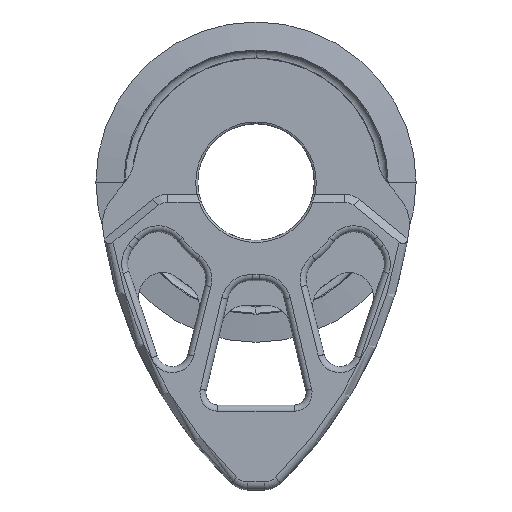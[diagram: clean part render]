
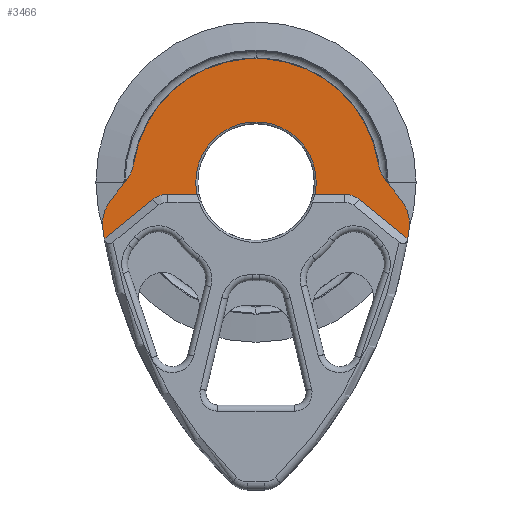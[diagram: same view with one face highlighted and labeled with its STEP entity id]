
A CAD part, front view. The second image highlights one B-rep face of the part: STEP entity #3466.
In plain terms, the highlighted planar face has unit normal (0, -1, 0) as drawn and (0, 0, 1) by its records, which use the part's own axes.
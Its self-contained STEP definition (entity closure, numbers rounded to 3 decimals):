
#1810=CARTESIAN_POINT('',(0.,0.,13.8));
#1811=DIRECTION('',(0.,0.,-1.));
#1812=DIRECTION('',(0.98,0.199,0.));
#1813=AXIS2_PLACEMENT_3D('',#1810,#1811,#1812);
#1823=DIRECTION('',(0.777,0.629,0.));
#1824=VECTOR('',#1823,15.612);
#1825=CARTESIAN_POINT('',(25.776,4.337,13.8));
#1826=LINE('',#1825,#1824);
#1827=DIRECTION('',(0.777,-0.629,0.));
#1828=VECTOR('',#1827,15.612);
#1829=CARTESIAN_POINT('',(-37.908,14.162,13.8));
#1830=LINE('',#1829,#1828);
#1831=CARTESIAN_POINT('',(-22.,9.,13.8));
#1832=DIRECTION('',(0.,0.,1.));
#1833=DIRECTION('',(-0.629,-0.777,0.));
#1834=AXIS2_PLACEMENT_3D('',#1831,#1832,#1833);
#1836=DIRECTION('',(1.,0.,0.));
#1837=VECTOR('',#1836,7.252);
#1838=CARTESIAN_POINT('',(-22.,3.,13.8));
#1839=LINE('',#1838,#1837);
#1840=DIRECTION('',(1.,0.,0.));
#1841=VECTOR('',#1840,7.252);
#1842=CARTESIAN_POINT('',(14.748,3.,13.8));
#1843=LINE('',#1842,#1841);
#1844=CARTESIAN_POINT('',(22.,9.,13.8));
#1845=DIRECTION('',(0.,0.,1.));
#1846=DIRECTION('',(0.,-1.,0.));
#1847=AXIS2_PLACEMENT_3D('',#1844,#1845,#1846);
#1849=CARTESIAN_POINT('',(37.908,14.162,13.8));
#2046=CARTESIAN_POINT('',(-37.908,14.162,13.8));
#2065=CARTESIAN_POINT('',(-14.748,3.,13.8));
#2101=CARTESIAN_POINT('',(14.748,3.,13.8));
#2166=CARTESIAN_POINT('',(69.823,-3.067,13.8));
#2167=DIRECTION('',(0.,0.,1.));
#2168=DIRECTION('',(-0.987,0.158,0.));
#2169=AXIS2_PLACEMENT_3D('',#2166,#2167,#2168);
#2744=CARTESIAN_POINT('',(-69.823,-3.067,13.8));
#2745=DIRECTION('',(0.,0.,1.));
#2746=DIRECTION('',(0.991,0.137,0.));
#2747=AXIS2_PLACEMENT_3D('',#2744,#2745,#2746);
#2789=CARTESIAN_POINT('',(28.341,10.524,13.8));
#2790=DIRECTION('',(0.,0.,-1.));
#2791=DIRECTION('',(0.991,0.137,0.));
#2792=AXIS2_PLACEMENT_3D('',#2789,#2790,#2791);
#2794=DIRECTION('',(0.63,0.777,0.));
#2795=VECTOR('',#2794,5.507);
#2796=CARTESIAN_POINT('',(32.638,-0.052,13.8));
#2797=LINE('',#2796,#2795);
#2810=CARTESIAN_POINT('',(40.404,-6.352,13.8));
#2811=DIRECTION('',(0.,0.,1.));
#2812=DIRECTION('',(-0.777,0.63,0.));
#2813=AXIS2_PLACEMENT_3D('',#2810,#2811,#2812);
#2815=CARTESIAN_POINT('',(0.,0.,13.8));
#2816=DIRECTION('',(0.,0.,1.));
#2817=DIRECTION('',(-0.988,-0.155,0.));
#2818=AXIS2_PLACEMENT_3D('',#2815,#2816,#2817);
#2828=CARTESIAN_POINT('',(-40.404,-6.352,13.8));
#2829=DIRECTION('',(0.,0.,1.));
#2830=DIRECTION('',(0.988,0.155,0.));
#2831=AXIS2_PLACEMENT_3D('',#2828,#2829,#2830);
#2833=DIRECTION('',(0.63,-0.777,0.));
#2834=VECTOR('',#2833,5.507);
#2835=CARTESIAN_POINT('',(-36.107,4.224,13.8));
#2836=LINE('',#2835,#2834);
#2849=CARTESIAN_POINT('',(-28.341,10.524,13.8));
#2850=DIRECTION('',(0.,0.,-1.));
#2851=DIRECTION('',(-0.777,-0.63,0.));
#2852=AXIS2_PLACEMENT_3D('',#2849,#2850,#2851);
#2994=CARTESIAN_POINT('',(38.246,11.896,13.8));
#2995=CARTESIAN_POINT('',(36.107,4.224,13.8));
#2996=VERTEX_POINT('',#2994);
#2997=VERTEX_POINT('',#2995);
#2998=CARTESIAN_POINT('',(32.638,-0.052,13.8));
#2999=VERTEX_POINT('',#2998);
#3000=CARTESIAN_POINT('',(30.525,-4.799,13.8));
#3001=VERTEX_POINT('',#3000);
#3002=CARTESIAN_POINT('',(-30.525,-4.799,13.8));
#3003=VERTEX_POINT('',#3002);
#3004=CARTESIAN_POINT('',(-32.638,-0.052,13.8));
#3005=VERTEX_POINT('',#3004);
#3006=CARTESIAN_POINT('',(-36.107,4.224,13.8));
#3007=VERTEX_POINT('',#3006);
#3008=CARTESIAN_POINT('',(-38.246,11.896,13.8));
#3009=VERTEX_POINT('',#3008);
#3014=CARTESIAN_POINT('',(22.,3.,13.8));
#3015=CARTESIAN_POINT('',(25.776,4.337,13.8));
#3016=VERTEX_POINT('',#3014);
#3017=VERTEX_POINT('',#3015);
#3022=CARTESIAN_POINT('',(-25.776,4.337,13.8));
#3023=CARTESIAN_POINT('',(-22.,3.,13.8));
#3024=VERTEX_POINT('',#3022);
#3025=VERTEX_POINT('',#3023);
#3037=VERTEX_POINT('',#2101);
#3042=VERTEX_POINT('',#2065);
#3044=VERTEX_POINT('',#2046);
#3061=VERTEX_POINT('',#1849);
#3428=CARTESIAN_POINT('',(0.,0.,13.8));
#3429=DIRECTION('',(0.,0.,1.));
#3430=DIRECTION('',(1.,0.,0.));
#3431=AXIS2_PLACEMENT_3D('',#3428,#3429,#3430);
#3432=PLANE('',#3431);
#3434=ORIENTED_EDGE('',*,*,#3433,.T.);
#3436=ORIENTED_EDGE('',*,*,#3435,.F.);
#3438=ORIENTED_EDGE('',*,*,#3437,.T.);
#3440=ORIENTED_EDGE('',*,*,#3439,.F.);
#3442=ORIENTED_EDGE('',*,*,#3441,.T.);
#3444=ORIENTED_EDGE('',*,*,#3443,.F.);
#3446=ORIENTED_EDGE('',*,*,#3445,.T.);
#3448=ORIENTED_EDGE('',*,*,#3447,.F.);
#3450=ORIENTED_EDGE('',*,*,#3449,.T.);
#3452=ORIENTED_EDGE('',*,*,#3451,.F.);
#3454=ORIENTED_EDGE('',*,*,#3453,.T.);
#3456=ORIENTED_EDGE('',*,*,#3455,.T.);
#3458=ORIENTED_EDGE('',*,*,#3457,.T.);
#3459=ORIENTED_EDGE('',*,*,#3410,.F.);
#3461=ORIENTED_EDGE('',*,*,#3460,.T.);
#3463=ORIENTED_EDGE('',*,*,#3462,.T.);
#3464=EDGE_LOOP('',(#3434,#3436,#3438,#3440,#3442,#3444,#3446,#3448,#3450,#3452,
#3454,#3456,#3458,#3459,#3461,#3463));
#3465=FACE_OUTER_BOUND('',#3464,.F.);
#3466=ADVANCED_FACE('',(#3465),#3432,.T.);
#1814=CIRCLE('',#1813,15.05);
#1835=CIRCLE('',#1834,6.);
#1848=CIRCLE('',#1847,6.);
#2170=CIRCLE('',#2169,109.1);
#2748=CIRCLE('',#2747,109.1);
#2793=CIRCLE('',#2792,10.);
#2814=CIRCLE('',#2813,10.);
#2819=CIRCLE('',#2818,30.9);
#2832=CIRCLE('',#2831,10.);
#2853=CIRCLE('',#2852,10.);
#3410=EDGE_CURVE('',#3037,#3042,#1814,.T.);
#3433=EDGE_CURVE('',#3017,#3061,#1826,.T.);
#3435=EDGE_CURVE('',#2996,#3061,#2748,.T.);
#3437=EDGE_CURVE('',#2996,#2997,#2793,.T.);
#3439=EDGE_CURVE('',#2999,#2997,#2797,.T.);
#3441=EDGE_CURVE('',#2999,#3001,#2814,.T.);
#3443=EDGE_CURVE('',#3003,#3001,#2819,.T.);
#3445=EDGE_CURVE('',#3003,#3005,#2832,.T.);
#3447=EDGE_CURVE('',#3007,#3005,#2836,.T.);
#3449=EDGE_CURVE('',#3007,#3009,#2853,.T.);
#3451=EDGE_CURVE('',#3044,#3009,#2170,.T.);
#3453=EDGE_CURVE('',#3044,#3024,#1830,.T.);
#3455=EDGE_CURVE('',#3024,#3025,#1835,.T.);
#3457=EDGE_CURVE('',#3025,#3042,#1839,.T.);
#3460=EDGE_CURVE('',#3037,#3016,#1843,.T.);
#3462=EDGE_CURVE('',#3016,#3017,#1848,.T.);
